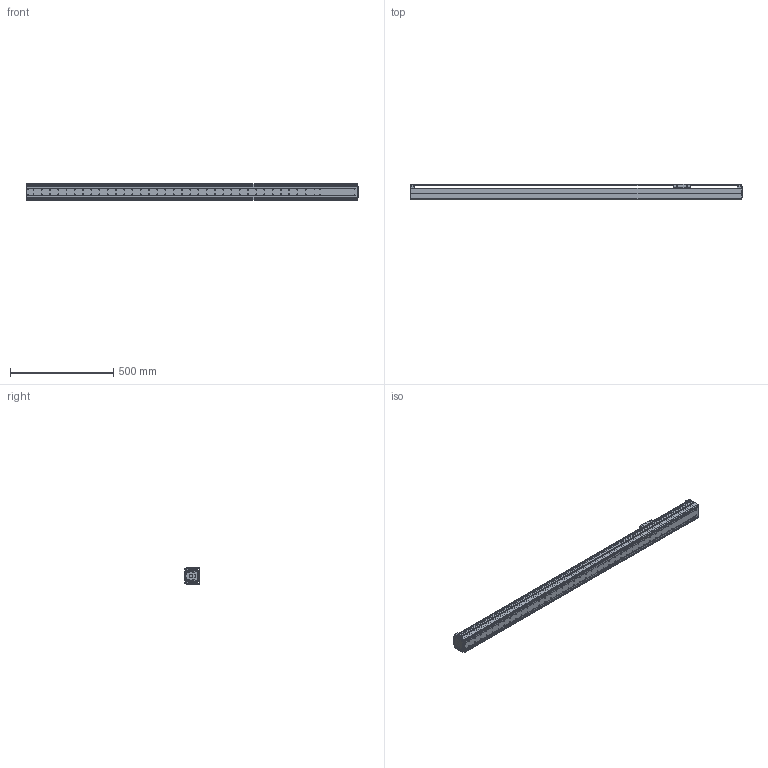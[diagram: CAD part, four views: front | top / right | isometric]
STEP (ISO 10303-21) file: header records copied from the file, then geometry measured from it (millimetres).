
FILE_DESCRIPTION((''),'2;1');
FILE_NAME('BE10E-ST-S_B-C5_IGS_PRT','2017-06-17T',(' '),(''),'PRO/ENGINEER BY PARAMETRIC TECHNOLOGY CORPORATION, 2015030','PRO/ENGINEER BY PARAMETRIC TECHNOLOGY CORPORATION, 2015030','');
FILE_SCHEMA(('CONFIG_CONTROL_DESIGN'));
Length unit declared in the file: millimetre
Products named in the file (1): BE10E-ST-S_B-C5_IGS_PRT
Bounding box: 1610 x 75 x 78 mm (x, y, z)
Volume: 1790888.6 mm3; surface area: 1176287.3 mm2
Topology: 2 solids, 108 shells, 1344 faces, 3629 edges, 2386 vertices
Faces by surface type: cylinder 720, plane 471, torus 64, sphere 42, cone 38, bspline 9
Entity records: 44071 total; most frequent: CARTESIAN_POINT 9303, DIRECTION 7560, ORIENTED_EDGE 6798, EDGE_CURVE 3605, AXIS2_PLACEMENT_3D 2911, VERTEX_POINT 2386, VECTOR 1738, LINE 1738
